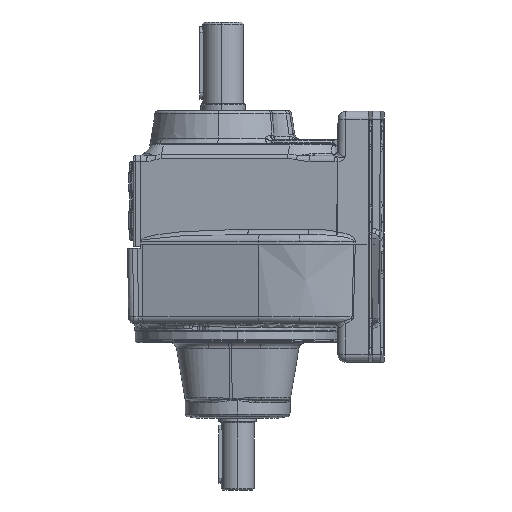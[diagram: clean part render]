
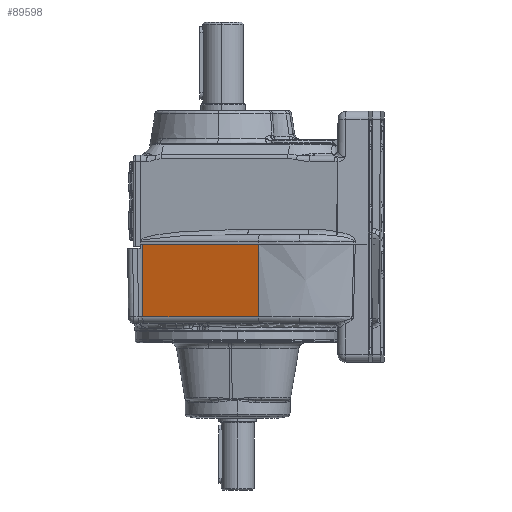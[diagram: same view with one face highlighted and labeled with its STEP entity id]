
A CAD part, left-side view. The second image highlights one B-rep face of the part: STEP entity #89598.
In plain terms, the highlighted planar face has unit normal (-0.954, 0.301, -0.021) as drawn and (-0.972, 0.233, -0.021) by its records, which use the part's own axes.
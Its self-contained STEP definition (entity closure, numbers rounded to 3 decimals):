
#14220 = EDGE_CURVE ( 'NONE', #89091, #122835, #120210, .T. ) ;
#15282 = AXIS2_PLACEMENT_3D ( 'NONE', #19211, #47598, #38127 ) ;
#16143 = DIRECTION ( 'NONE',  ( 0.233, 0.972, 0. ) ) ;
#19199 = ORIENTED_EDGE ( 'NONE', *, *, #57081, .T. ) ;
#19211 = CARTESIAN_POINT ( 'NONE',  ( -133., 112., 0. ) ) ;
#22494 = LINE ( 'NONE', #69806, #112093 ) ;
#29994 = CARTESIAN_POINT ( 'NONE',  ( -177.693, -63.749, 116.5 ) ) ;
#31756 = CARTESIAN_POINT ( 'NONE',  ( -133.199, 112.048, 9.791 ) ) ;
#32360 = DIRECTION ( 'NONE',  ( 0.021, -0.002, -1. ) ) ;
#38127 = DIRECTION ( 'NONE',  ( -0.233, -0.972, 0. ) ) ;
#42583 = VERTEX_POINT ( 'NONE', #69067 ) ;
#47598 = DIRECTION ( 'NONE',  ( -0.972, 0.233, -0.021 ) ) ;
#54268 = VECTOR ( 'NONE', #16143, 1000. ) ;
#56285 = EDGE_LOOP ( 'NONE', ( #19199, #65525, #108996, #123317 ) ) ;
#57081 = EDGE_CURVE ( 'NONE', #122835, #76807, #108667, .T. ) ;
#60134 = DIRECTION ( 'NONE',  ( 0.233, 0.972, 0. ) ) ;
#65525 = ORIENTED_EDGE ( 'NONE', *, *, #73826, .F. ) ;
#69067 = CARTESIAN_POINT ( 'NONE',  ( -175.519, -64.271, 9.791 ) ) ;
#69806 = CARTESIAN_POINT ( 'NONE',  ( -175.32, -64.319, 0. ) ) ;
#72272 = CARTESIAN_POINT ( 'NONE',  ( -135.373, 112.57, 116.5 ) ) ;
#73826 = EDGE_CURVE ( 'NONE', #42583, #76807, #108072, .T. ) ;
#76807 = VERTEX_POINT ( 'NONE', #89805 ) ;
#86047 = PLANE ( 'NONE',  #15282 ) ;
#89091 = VERTEX_POINT ( 'NONE', #29994 ) ;
#89598 = ADVANCED_FACE ( 'NONE', ( #106236 ), #86047, .T. ) ;
#89805 = CARTESIAN_POINT ( 'NONE',  ( -134.033, 108.573, 9.791 ) ) ;
#92029 = EDGE_CURVE ( 'NONE', #42583, #89091, #22494, .T. ) ;
#106095 = VECTOR ( 'NONE', #32360, 1000. ) ;
#106236 = FACE_OUTER_BOUND ( 'NONE', #56285, .T. ) ;
#108072 = LINE ( 'NONE', #31756, #118688 ) ;
#108273 = DIRECTION ( 'NONE',  ( -0.02, 0.005, 1. ) ) ;
#108667 = LINE ( 'NONE', #118762, #106095 ) ;
#108996 = ORIENTED_EDGE ( 'NONE', *, *, #92029, .T. ) ;
#109698 = CARTESIAN_POINT ( 'NONE',  ( -136.269, 108.838, 116.5 ) ) ;
#112093 = VECTOR ( 'NONE', #108273, 1000. ) ;
#118688 = VECTOR ( 'NONE', #60134, 1000. ) ;
#118762 = CARTESIAN_POINT ( 'NONE',  ( -136.269, 108.838, 116.5 ) ) ;
#120210 = LINE ( 'NONE', #72272, #54268 ) ;
#122835 = VERTEX_POINT ( 'NONE', #109698 ) ;
#123317 = ORIENTED_EDGE ( 'NONE', *, *, #14220, .T. ) ;
